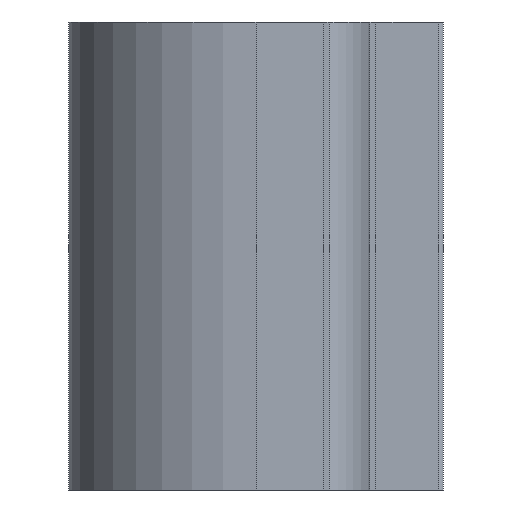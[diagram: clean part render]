
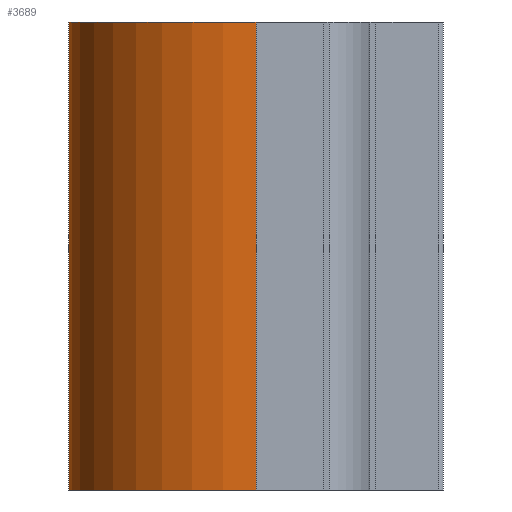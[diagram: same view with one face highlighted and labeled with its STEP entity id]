
A CAD part, front view. The second image highlights one B-rep face of the part: STEP entity #3689.
In plain terms, the highlighted cylindrical face has radius 40 mm (diameter 80 mm), a partial arc.
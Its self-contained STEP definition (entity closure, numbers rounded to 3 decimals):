
#313=FACE_OUTER_BOUND('',#495,.T.);
#495=EDGE_LOOP('',(#3037,#3038,#3039,#3040));
#899=LINE('',#6040,#1311);
#900=LINE('',#6046,#1312);
#1311=VECTOR('',#4963,100.);
#1312=VECTOR('',#4970,100.);
#1475=CIRCLE('',#3996,40.);
#1476=CIRCLE('',#3997,40.);
#1809=VERTEX_POINT('',#6036);
#1810=VERTEX_POINT('',#6038);
#1811=VERTEX_POINT('',#6042);
#1812=VERTEX_POINT('',#6044);
#2333=EDGE_CURVE('',#1809,#1810,#899,.T.);
#2334=EDGE_CURVE('',#1809,#1811,#1475,.T.);
#2335=EDGE_CURVE('',#1812,#1810,#1476,.T.);
#2336=EDGE_CURVE('',#1811,#1812,#900,.T.);
#3037=ORIENTED_EDGE('',*,*,#2334,.F.);
#3038=ORIENTED_EDGE('',*,*,#2333,.T.);
#3039=ORIENTED_EDGE('',*,*,#2335,.F.);
#3040=ORIENTED_EDGE('',*,*,#2336,.F.);
#3522=CYLINDRICAL_SURFACE('',#3995,40.);
#3689=ADVANCED_FACE('',(#313),#3522,.T.);
#3995=AXIS2_PLACEMENT_3D('',#6041,#4964,#4965);
#3996=AXIS2_PLACEMENT_3D('',#6043,#4966,#4967);
#3997=AXIS2_PLACEMENT_3D('',#6045,#4968,#4969);
#4963=DIRECTION('',(0.,0.,1.));
#4964=DIRECTION('center_axis',(0.,0.,1.));
#4965=DIRECTION('ref_axis',(1.,0.,0.));
#4966=DIRECTION('center_axis',(0.,0.,-1.));
#4967=DIRECTION('ref_axis',(1.,0.,0.));
#4968=DIRECTION('center_axis',(0.,0.,1.));
#4969=DIRECTION('ref_axis',(1.,0.,0.));
#4970=DIRECTION('',(0.,0.,1.));
#6036=CARTESIAN_POINT('',(39.98,0.061,0.));
#6038=CARTESIAN_POINT('',(39.98,0.061,100.));
#6040=CARTESIAN_POINT('',(39.98,0.061,0.));
#6041=CARTESIAN_POINT('Origin',(39.98,40.061,0.));
#6042=CARTESIAN_POINT('',(-0.02,40.061,0.));
#6043=CARTESIAN_POINT('Origin',(39.98,40.061,0.));
#6044=CARTESIAN_POINT('',(-0.02,40.061,100.));
#6045=CARTESIAN_POINT('Origin',(39.98,40.061,100.));
#6046=CARTESIAN_POINT('',(-0.02,40.061,0.));
